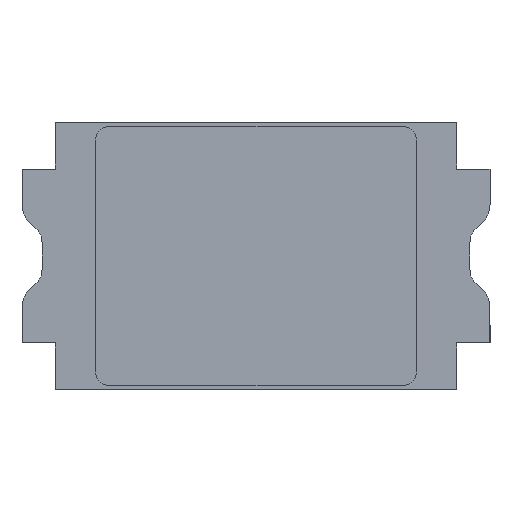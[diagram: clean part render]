
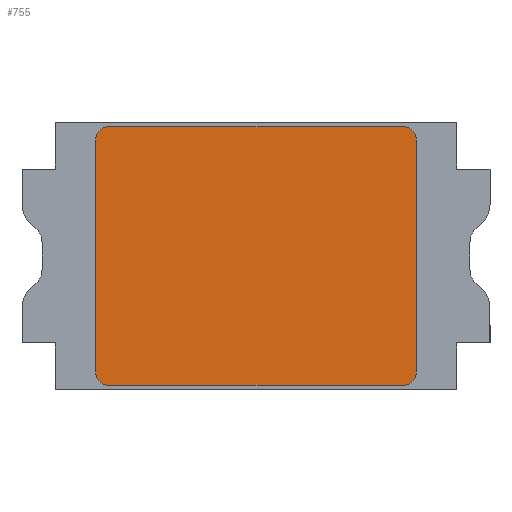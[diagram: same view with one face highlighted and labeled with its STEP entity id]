
A CAD part, front view. The second image highlights one B-rep face of the part: STEP entity #755.
In plain terms, the highlighted planar face has unit normal (0, -1, 0).
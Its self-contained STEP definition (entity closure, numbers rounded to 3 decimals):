
#272 = EDGE_CURVE ( 'NONE', #2282, #2129, #1555, .T. ) ;
#307 = AXIS2_PLACEMENT_3D ( 'NONE', #3458, #3322, #3474 ) ;
#321 = AXIS2_PLACEMENT_3D ( 'NONE', #3391, #3390, #3389 ) ;
#329 = AXIS2_PLACEMENT_3D ( 'NONE', #3329, #3377, #3333 ) ;
#449 = EDGE_CURVE ( 'NONE', #2129, #2152, #1394, .T. ) ;
#482 = EDGE_CURVE ( 'NONE', #2412, #2285, #1877, .T. ) ;
#484 = EDGE_CURVE ( 'NONE', #2355, #2282, #1874, .T. ) ;
#662 = EDGE_CURVE ( 'NONE', #2133, #2404, #1209, .T. ) ;
#670 = EDGE_CURVE ( 'NONE', #2285, #2355, #1182, .T. ) ;
#680 = EDGE_CURVE ( 'NONE', #2404, #2412, #1171, .T. ) ;
#720 = EDGE_CURVE ( 'NONE', #2152, #2133, #1137, .T. ) ;
#744 = AXIS2_PLACEMENT_3D ( 'NONE', #1592, #2001, #1590 ) ;
#753 = AXIS2_PLACEMENT_3D ( 'NONE', #1110, #1107, #1102 ) ;
#755 = ADVANCED_FACE ( 'NONE', ( #1061 ), #1131, .T. ) ;
#1061 = FACE_OUTER_BOUND ( 'NONE', #1993, .T. ) ;
#1102 = DIRECTION ( 'NONE',  ( 0., 0., -1. ) ) ;
#1107 = DIRECTION ( 'NONE',  ( 0., -1., 0. ) ) ;
#1110 = CARTESIAN_POINT ( 'NONE',  ( 0., 0., 0. ) ) ;
#1127 = VECTOR ( 'NONE', #1314, 1000. ) ;
#1131 = PLANE ( 'NONE',  #753 ) ;
#1137 = LINE ( 'NONE', #1319, #1127 ) ;
#1160 = VECTOR ( 'NONE', #1393, 1000. ) ;
#1171 = LINE ( 'NONE', #1398, #1160 ) ;
#1182 = LINE ( 'NONE', #1445, #1184 ) ;
#1184 = VECTOR ( 'NONE', #1442, 1000. ) ;
#1209 = CIRCLE ( 'NONE', #744, 0.1 ) ;
#1314 = DIRECTION ( 'NONE',  ( 0., 0., 1. ) ) ;
#1319 = CARTESIAN_POINT ( 'NONE',  ( 1.2, 0., 0. ) ) ;
#1393 = DIRECTION ( 'NONE',  ( -1., 0., 0. ) ) ;
#1394 = CIRCLE ( 'NONE', #307, 0.1 ) ;
#1398 = CARTESIAN_POINT ( 'NONE',  ( 0., 0., 0.968 ) ) ;
#1442 = DIRECTION ( 'NONE',  ( 0., 0., -1. ) ) ;
#1445 = CARTESIAN_POINT ( 'NONE',  ( -1.2, 0., 0. ) ) ;
#1548 = VECTOR ( 'NONE', #3498, 1000. ) ;
#1555 = LINE ( 'NONE', #3478, #1548 ) ;
#1590 = DIRECTION ( 'NONE',  ( 0., 0., -1. ) ) ;
#1592 = CARTESIAN_POINT ( 'NONE',  ( 1.1, 0., 0.868 ) ) ;
#1874 = CIRCLE ( 'NONE', #321, 0.1 ) ;
#1877 = CIRCLE ( 'NONE', #329, 0.1 ) ;
#1993 = EDGE_LOOP ( 'NONE', ( #2153, #2137, #2323, #2145, #2291, #2038, #2023, #2041 ) ) ;
#2001 = DIRECTION ( 'NONE',  ( 0., -1., 0. ) ) ;
#2023 = ORIENTED_EDGE ( 'NONE', *, *, #680, .T. ) ;
#2038 = ORIENTED_EDGE ( 'NONE', *, *, #662, .T. ) ;
#2041 = ORIENTED_EDGE ( 'NONE', *, *, #482, .T. ) ;
#2129 = VERTEX_POINT ( 'NONE', #2646 ) ;
#2133 = VERTEX_POINT ( 'NONE', #2574 ) ;
#2137 = ORIENTED_EDGE ( 'NONE', *, *, #484, .T. ) ;
#2145 = ORIENTED_EDGE ( 'NONE', *, *, #449, .T. ) ;
#2152 = VERTEX_POINT ( 'NONE', #2500 ) ;
#2153 = ORIENTED_EDGE ( 'NONE', *, *, #670, .T. ) ;
#2282 = VERTEX_POINT ( 'NONE', #2866 ) ;
#2285 = VERTEX_POINT ( 'NONE', #2896 ) ;
#2291 = ORIENTED_EDGE ( 'NONE', *, *, #720, .T. ) ;
#2323 = ORIENTED_EDGE ( 'NONE', *, *, #272, .T. ) ;
#2355 = VERTEX_POINT ( 'NONE', #2861 ) ;
#2404 = VERTEX_POINT ( 'NONE', #2916 ) ;
#2412 = VERTEX_POINT ( 'NONE', #2663 ) ;
#2500 = CARTESIAN_POINT ( 'NONE',  ( 1.2, 0., -0.868 ) ) ;
#2574 = CARTESIAN_POINT ( 'NONE',  ( 1.2, 0., 0.868 ) ) ;
#2646 = CARTESIAN_POINT ( 'NONE',  ( 1.1, 0., -0.968 ) ) ;
#2663 = CARTESIAN_POINT ( 'NONE',  ( -1.1, 0., 0.968 ) ) ;
#2861 = CARTESIAN_POINT ( 'NONE',  ( -1.2, 0., -0.868 ) ) ;
#2866 = CARTESIAN_POINT ( 'NONE',  ( -1.1, 0., -0.968 ) ) ;
#2896 = CARTESIAN_POINT ( 'NONE',  ( -1.2, 0., 0.868 ) ) ;
#2916 = CARTESIAN_POINT ( 'NONE',  ( 1.1, 0., 0.968 ) ) ;
#3322 = DIRECTION ( 'NONE',  ( 0., -1., 0. ) ) ;
#3329 = CARTESIAN_POINT ( 'NONE',  ( -1.1, 0., 0.868 ) ) ;
#3333 = DIRECTION ( 'NONE',  ( 0., 0., -1. ) ) ;
#3377 = DIRECTION ( 'NONE',  ( 0., -1., 0. ) ) ;
#3389 = DIRECTION ( 'NONE',  ( 0., 0., -1. ) ) ;
#3390 = DIRECTION ( 'NONE',  ( 0., -1., 0. ) ) ;
#3391 = CARTESIAN_POINT ( 'NONE',  ( -1.1, 0., -0.868 ) ) ;
#3458 = CARTESIAN_POINT ( 'NONE',  ( 1.1, 0., -0.868 ) ) ;
#3474 = DIRECTION ( 'NONE',  ( 0., 0., -1. ) ) ;
#3478 = CARTESIAN_POINT ( 'NONE',  ( 0., 0., -0.968 ) ) ;
#3498 = DIRECTION ( 'NONE',  ( 1., 0., 0. ) ) ;
